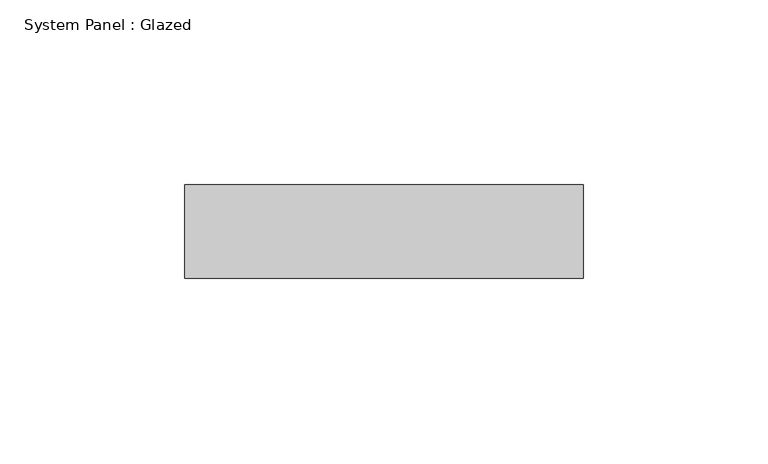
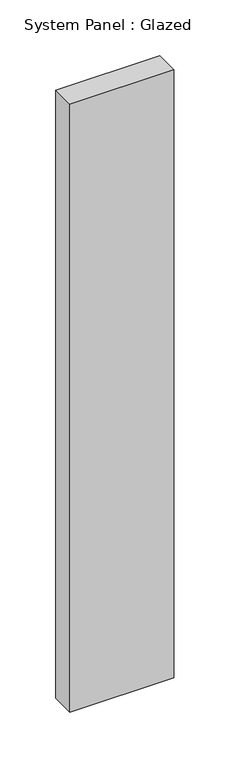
"""IFC4 building model written with IfcOpenShell, lengths in millimetres: plate geometry, System Panel : Glazed."""

from ifc_helpers import new_model, si_unit, origin, origin_with_axes, place, context, project, spatial, polyline, outline, extrude, source, transform, mapped, element, save


def system_panel_glazed_2b33f9cb(model_context):
    return source(origin(), model_context, "Body", "SweptSolid", [
        extrude(outline(polyline([(53.975, 19.05), (-53.975, 19.05), (-53.975, 44.45), (53.975, 44.45), (53.975, 19.05)])), origin_with_axes(), (0.0, 0.0, 1.0), 666.75),
    ])


if __name__ == "__main__":
    model = new_model("IFC4")
    model_context = context("Model", 3, world=origin())
    ifc_project = project(units=[si_unit("LENGTHUNIT", "METRE", prefix="MILLI")], contexts=[model_context])
    site = spatial("IfcSite", under=ifc_project)
    building = spatial("IfcBuilding", under=site)
    placement = place(None, origin())
    system_panel_glazed_shape = system_panel_glazed_2b33f9cb(model_context)
    element("IfcPlate", 1, ObjectType="System Panel : Glazed", at=placement, inside=building, context=model_context, shape_type="MappedRepresentation", body=[
        mapped(system_panel_glazed_shape, transform((0.0, 0.0, 0.0), x_axis=(1.0, 0.0, 0.0), y_axis=(0.0, 1.0, 0.0), z_axis=(0.0, 0.0, 1.0))),
    ])
    save(model, "model.ifc")
